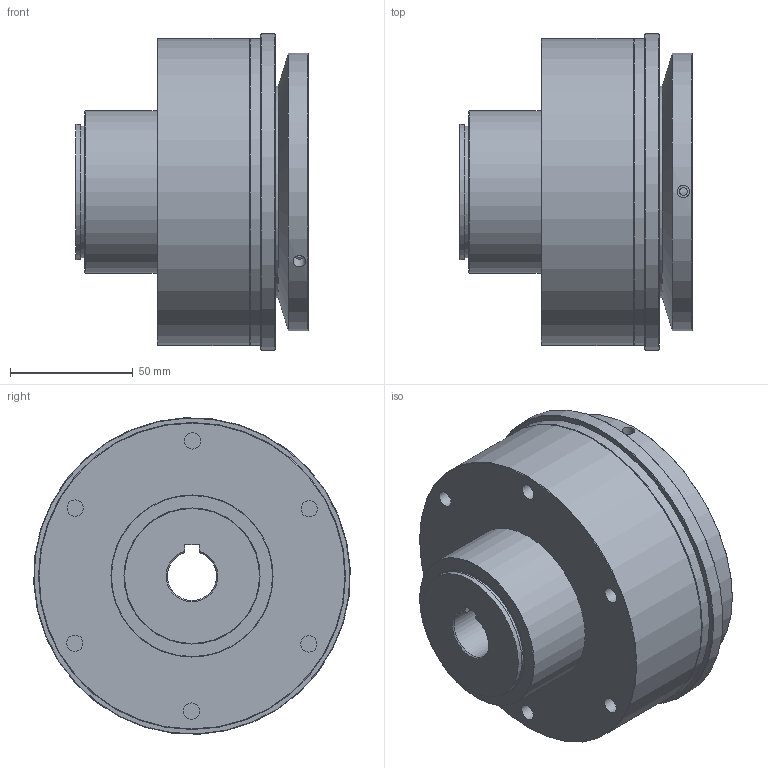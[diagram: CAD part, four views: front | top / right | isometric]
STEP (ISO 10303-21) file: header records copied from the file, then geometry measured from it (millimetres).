
FILE_DESCRIPTION( ( 'Unknown' ), '1' );
FILE_NAME( 'C:/Users/TWalzel/Documents/CAD-Daten/KBK-CP/500/KBK C-P-500.stp', 'Unknown', ( 'Unknown' ), ( 'Unknown' ), 'PSStep 16.0.42', 'Unknown', ' ' );
FILE_SCHEMA( ( 'AUTOMOTIVE_DESIGN { 1 0 10303 214 1 1 1 1 }' ) );
Length unit declared in the file: millimetre
Products named in the file (7): Druckring 500; Stellring 500; Assem1; Flansch-Gleitlager  CK-500; Grundkörper C-P-500_1
Assembly tree (6 placements, depth 3):
  Assem1
    Flansch-Gleitlager  CK-500
    Grundkörper C-P-500_1
    Stellring 500
      Stellring 500
    Druckring 500
      Druckring 500
Bounding box: 94.45 x 128.86 x 128.86 mm (x, y, z)
Volume: 770066.7 mm3; surface area: 131578.5 mm2
Topology: 4 solids, 4 shells, 87 faces, 173 edges, 110 vertices
Faces by surface type: cylinder 35, plane 31, cone 19, torus 2
Full cylindrical faces by diameter (mm): 3.242 x3, 5.1 x3, 5.2 x3, 6.647 x12, 53.5 x1, 55 x3, 66 x1, 86 x2, 104.5 x1, 113 x1, 114 x1, 125 x2, 129 x1
Entity records: 3029 total; most frequent: CARTESIAN_POINT 635, DIRECTION 367, ORIENTED_EDGE 206, AXIS2_PLACEMENT_3D 176, EDGE_LOOP 171, FACE_OUTER_BOUND 123, EDGE_CURVE 103, VERTEX_POINT 94
